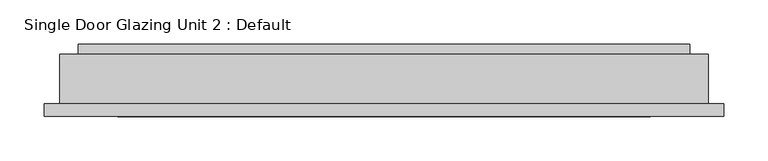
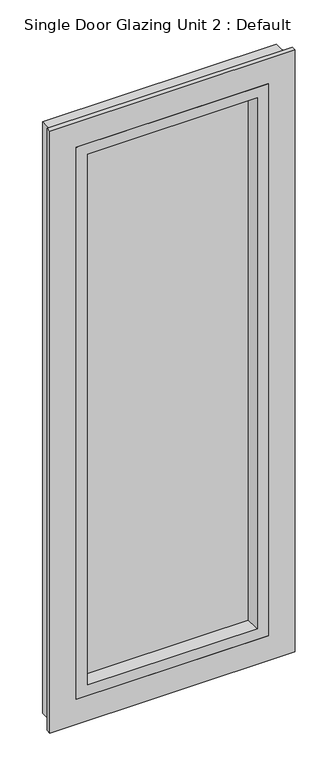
"""IFC4 building model written with IfcOpenShell, lengths in millimetres: proxy geometry, Single Door Glazing Unit 2 : Default."""

import ifcopenshell
import ifcopenshell.guid

model = None  # the IFC model being written
_history = None  # IfcOwnerHistory: only IFC2X3 demands one
_inside = {}  # id of a spatial element -> (the spatial element, [elements in it])
_under = {}  # id of a project, library or spatial element -> (it, [spatial elements below it])
_declared = {}  # id of a project -> (the project, [libraries it declares])
_typed = {}  # id of a type object -> (the type object, [elements of that type])
_made_of = {}  # id of a material, layer set ... -> (it, [elements and type objects made of it])


def new_model(schema):
    """Start an empty IFC model of exactly this schema.

    Asked for "IFC4X3", IfcOpenShell would pick the latest addendum, in which some entities
    have other attributes; the version numbers below select the first issue.
    IFC2X3 requires an IfcOwnerHistory on every rooted entity: one is made here for all.
    """
    global model, _history
    if schema == "IFC4X3":
        model = ifcopenshell.file(schema_version=(4, 3, 0, 0))
    else:
        model = ifcopenshell.file(schema=schema)
    _inside.clear()
    _under.clear()
    _declared.clear()
    _typed.clear()
    _made_of.clear()
    _history = None
    if model.schema == "IFC2X3":
        org = make("IfcOrganization", Name="unknown")
        user = make(
            "IfcPersonAndOrganization",
            ThePerson=make("IfcPerson", FamilyName="unknown"),
            TheOrganization=org,
        )
        app = make(
            "IfcApplication",
            ApplicationDeveloper=org,
            Version="unknown",
            ApplicationFullName="unknown",
            ApplicationIdentifier="unknown",
        )
        _history = make(
            "IfcOwnerHistory",
            OwningUser=user,
            OwningApplication=app,
            ChangeAction="ADDED",
            CreationDate=0,
        )
    return model


def make(cls, **values):
    """One entity of the class cls with the attributes given. An attribute that is None is left unset."""
    return model.create_entity(
        cls, **{name: value for name, value in values.items() if value is not None}
    )


def rooted(cls, **values):
    """An entity with a GlobalId (a new one), such as an element, a storey or a relation."""
    return make(cls, GlobalId=ifcopenshell.guid.new(), OwnerHistory=_history, **values)


def si_unit(unit_type, name, prefix=None):
    """IfcSIUnit, for example si_unit("LENGTHUNIT", "METRE", prefix="MILLI")."""
    return make("IfcSIUnit", UnitType=unit_type, Prefix=prefix, Name=name)


def assignment(units):
    """IfcUnitAssignment: the units of a project."""
    return None if units is None else make("IfcUnitAssignment", Units=units)


def point(xyz):
    """IfcCartesianPoint."""
    return None if xyz is None else make("IfcCartesianPoint", Coordinates=xyz)


def direction(xyz):
    """IfcDirection."""
    return None if xyz is None else make("IfcDirection", DirectionRatios=xyz)


def frame(location, z_axis=None, x_axis=None):
    """IfcAxis2Placement3D, a coordinate frame: its origin and axes. An axis left out is left unset."""
    return make(
        "IfcAxis2Placement3D",
        Location=point(location),
        Axis=direction(z_axis),
        RefDirection=direction(x_axis),
    )


def origin():
    """The frame at (0, 0, 0) with its axes left unset."""
    return frame((0.0, 0.0, 0.0))


def place(relative_to, where):
    """IfcLocalPlacement: puts the frame where relative to a parent placement (None: the world)."""
    return make(
        "IfcLocalPlacement", PlacementRelTo=relative_to, RelativePlacement=where
    )


def context(
    kind, dimensions, precision=None, world=None, true_north=None, identifier=None
):
    """IfcGeometricRepresentationContext, for example the 3D "Model" context."""
    return make(
        "IfcGeometricRepresentationContext",
        ContextIdentifier=identifier,
        ContextType=kind,
        CoordinateSpaceDimension=dimensions,
        Precision=precision,
        WorldCoordinateSystem=world,
        TrueNorth=true_north,
    )


def project(units=None, contexts=None):
    """IfcProject with its units and contexts."""
    return rooted(
        "IfcProject",
        Name="project",
        RepresentationContexts=contexts,
        UnitsInContext=assignment(units),
    )


def spatial(cls, under=None, at=None, **own):
    """A site, building, storey or space (cls), placed at a placement, below another one or the project."""
    s = rooted(cls, ObjectPlacement=at, **own)
    if under is not None:
        _under.setdefault(under.id(), (under, []))[1].append(s)
    return s


def polyline(points):
    """IfcPolyline through the points."""
    return make("IfcPolyline", Points=[point(p) for p in points])


def outline(outer, holes=None, kind="AREA"):
    """IfcArbitraryClosedProfileDef: a profile drawn as a closed curve; with holes, ...WithVoids."""
    if holes is None:
        return make("IfcArbitraryClosedProfileDef", ProfileType=kind, OuterCurve=outer)
    return make(
        "IfcArbitraryProfileDefWithVoids",
        ProfileType=kind,
        OuterCurve=outer,
        InnerCurves=holes,
    )


def extrude(swept, where, along, depth):
    """IfcExtrudedAreaSolid: the profile swept, set in the frame where, extruded along a direction by depth."""
    return make(
        "IfcExtrudedAreaSolid",
        SweptArea=swept,
        Position=where,
        ExtrudedDirection=direction(along),
        Depth=depth,
    )


def faces_of(points, faces, orient=None, outer=None):
    """IfcFace entities. A face is a list of loops; a loop is a list of indices into points, from 0.

    orient and outer hold one flag for each loop. By default every Orientation is true, the
    first loop of a face is its IfcFaceOuterBound and the others are IfcFaceBound.
    """
    made = []
    for i, loops in enumerate(faces):
        bounds = []
        for j, loop in enumerate(loops):
            is_outer = j == 0 if outer is None else outer[i][j]
            bounds.append(
                make(
                    "IfcFaceOuterBound" if is_outer else "IfcFaceBound",
                    Bound=make("IfcPolyLoop", Polygon=[points[k] for k in loop]),
                    Orientation=True if orient is None else orient[i][j],
                )
            )
        made.append(make("IfcFace", Bounds=bounds))
    return made


def faceted_brep(points, faces, orient=None, outer=None, voids=None):
    """IfcFacetedBrep: a solid bounded by flat faces; with voids (closed shells), ...WithVoids."""
    shared = [point(p) for p in points]
    hull = make("IfcClosedShell", CfsFaces=faces_of(shared, faces, orient, outer))
    if voids is None:
        return make("IfcFacetedBrep", Outer=hull)
    return make(
        "IfcFacetedBrepWithVoids",
        Outer=hull,
        Voids=[
            make(cls, CfsFaces=faces_of(shared, fs, o, b)) for cls, fs, o, b in voids
        ],
    )


def shape(context_of_items, identifier, shape_type, items):
    """IfcShapeRepresentation: the items that make up one representation, for example the "Body"."""
    return make(
        "IfcShapeRepresentation",
        ContextOfItems=context_of_items,
        RepresentationIdentifier=identifier,
        RepresentationType=shape_type,
        Items=items,
    )


def source(mapping_origin, context_of_items, identifier, shape_type, items):
    """IfcRepresentationMap: a shape defined once, which mapped items show again and again."""
    return make(
        "IfcRepresentationMap",
        MappingOrigin=mapping_origin,
        MappedRepresentation=shape(context_of_items, identifier, shape_type, items),
    )


def transform(
    local_origin,
    x_axis=None,
    y_axis=None,
    z_axis=None,
    scale=None,
    scale2=None,
    scale3=None,
    uniform=True,
):
    """IfcCartesianTransformationOperator3D, or its non-uniform kind. x_axis, y_axis, z_axis: its Axis1, 2, 3."""
    if uniform:
        return make(
            "IfcCartesianTransformationOperator3D",
            Axis1=direction(x_axis),
            Axis2=direction(y_axis),
            LocalOrigin=point(local_origin),
            Scale=scale,
            Axis3=direction(z_axis),
        )
    return make(
        "IfcCartesianTransformationOperator3DnonUniform",
        Axis1=direction(x_axis),
        Axis2=direction(y_axis),
        LocalOrigin=point(local_origin),
        Scale=scale,
        Axis3=direction(z_axis),
        Scale2=scale2,
        Scale3=scale3,
    )


def mapped(mapping_source, mapping_target):
    """IfcMappedItem: shows the shape of a source again, moved by a transform."""
    return make(
        "IfcMappedItem", MappingSource=mapping_source, MappingTarget=mapping_target
    )


def made_of(thing, what):
    """Note that an element or type object is made of a material, layer set ...; save() writes the relation."""
    if what is not None:
        _made_of.setdefault(what.id(), (what, []))[1].append(thing)
    return thing


def element(
    cls,
    number,
    at=None,
    inside=None,
    cuts=None,
    type_object=None,
    material=None,
    context=None,
    identifier="Body",
    shape_type=None,
    held_by="IfcProductDefinitionShape",
    body=None,
    shapes=None,
    **own,
):
    """One element of the class cls, such as IfcWall. Its Tag is "e" and its number.

    at: its placement. inside: the storey or other place that contains it. cuts: it is an
    opening in that element (IfcRelVoidsElement). A single representation is given by context,
    identifier, shape_type and body (its items); several are given by shapes. held_by: the class
    of the entity that holds the representations. save() writes the other relations.
    """
    e = rooted(cls, Tag="e%d" % number, ObjectPlacement=at, **own)
    if body is not None:
        shapes = [shape(context, identifier, shape_type, body)]
    if shapes is not None:
        e.Representation = make(held_by, Representations=shapes)
    if inside is not None:
        _inside.setdefault(inside.id(), (inside, []))[1].append(e)
    if cuts is not None:
        rooted(
            "IfcRelVoidsElement", RelatingBuildingElement=cuts, RelatedOpeningElement=e
        )
    if type_object is not None:
        _typed.setdefault(type_object.id(), (type_object, []))[1].append(e)
    return made_of(e, material)


def aggregate(whole, parts):
    """IfcRelAggregates: a whole, such as a stair, and the parts it consists of."""
    return rooted("IfcRelAggregates", RelatingObject=whole, RelatedObjects=parts)


def save(model, path):
    """Write the relations noted so far, then the file.

    IfcRelAggregates (storeys below a building ...), IfcRelContainedInSpatialStructure (elements
    in a storey), IfcRelDefinesByType, IfcRelAssociatesMaterial and IfcRelDeclares: one each for
    every whole, place, type object, material and project.
    """
    for whole, parts in _under.values():
        aggregate(whole, parts)
    for where, things in _inside.values():
        rooted(
            "IfcRelContainedInSpatialStructure",
            RelatedElements=things,
            RelatingStructure=where,
        )
    for kind, things in _typed.values():
        rooted("IfcRelDefinesByType", RelatedObjects=things, RelatingType=kind)
    for what, things in _made_of.values():
        rooted("IfcRelAssociatesMaterial", RelatedObjects=things, RelatingMaterial=what)
    for by, libraries in _declared.values():
        rooted("IfcRelDeclares", RelatingContext=by, RelatedDefinitions=libraries)
    model.write(path)


def single_door_glazing_unit_2_default_b848760a(model_context):
    return source(origin(), model_context, "Body", "SolidModel", [
        extrude(outline(polyline([(344.4875, 80.9625), (344.4875, 69.85), (-344.4875, 69.85), (-344.4875, 80.9625), (344.4875, 80.9625)])), frame((0.0, 0.0, 41.275), z_axis=(0.0, 0.0, 1.0), x_axis=(1.0, 0.0, 0.0)), (0.0, 0.0, 1.0), 20.6375),
        extrude(outline(polyline([(-290.5125, 64.690625), (-290.5125, 69.85), (290.5125, 69.85), (290.5125, 64.690625), (-290.5125, 64.690625)])), frame((0.0, 0.0, 115.8875), z_axis=(0.0, 0.0, 1.0), x_axis=(1.0, 0.0, 0.0)), (0.0, 0.0, 1.0), 1800.225),
        extrude(outline(polyline([(-290.5125, 41.275), (-290.5125, 46.434375), (290.5125, 46.434375), (290.5125, 41.275), (-290.5125, 41.275)])), frame((0.0, 0.0, 115.8875), z_axis=(0.0, 0.0, 1.0), x_axis=(1.0, 0.0, 0.0)), (0.0, 0.0, 1.0), 1800.225),
        faceted_brep([(-300.0375, 1.5875, 1925.6375), (-300.0375, 0.0, 1925.6375), (300.0375, 0.0, 1925.6375), (300.0375, 1.5875, 1925.6375), (-290.5125, 20.6375, 1916.1125), (-290.5125, 1.5875, 1916.1125), (290.5125, 1.5875, 1916.1125), (290.5125, 20.6375, 1916.1125), (-266.7, 41.275, 1892.3), (266.7, 41.275, 1892.3), (-265.1125, 0.0, 1890.7125), (-260.35, 41.275, 1885.95), (260.35, 41.275, 1885.95), (265.1125, 0.0, 1890.7125), (300.0375, 0.0, 106.3625), (300.0375, 1.5875, 106.3625), (290.5125, 1.5875, 115.8875), (290.5125, 20.6375, 115.8875), (266.7, 41.275, 139.7), (260.35, 41.275, 146.05), (265.1125, 0.0, 141.2875), (-300.0375, 0.0, 106.3625), (-300.0375, 1.5875, 106.3625), (-290.5125, 1.5875, 115.8875), (-290.5125, 20.6375, 115.8875), (-266.7, 41.275, 139.7), (-260.35, 41.275, 146.05), (-265.1125, 0.0, 141.2875)], [[[0, 1, 2, 3]], [[4, 5, 6, 7]], [[8, 4, 7, 9]], [[10, 11, 12, 13]], [[3, 2, 14, 15]], [[7, 6, 16, 17]], [[9, 7, 17, 18]], [[13, 12, 19, 20]], [[15, 14, 21, 22]], [[17, 16, 23, 24]], [[18, 17, 24, 25]], [[20, 19, 26, 27]], [[1, 21, 14, 2], [13, 20, 27, 10]], [[22, 21, 1, 0]], [[3, 15, 22, 0], [5, 23, 16, 6]], [[24, 23, 5, 4]], [[25, 24, 4, 8]], [[9, 18, 25, 8], [11, 26, 19, 12]], [[27, 26, 11, 10]]]),
        faceted_brep([(-365.125, 69.85, 1990.725), (-365.125, 14.2875, 1990.725), (365.125, 14.2875, 1990.725), (365.125, 69.85, 1990.725), (-344.4875, 80.9625, 1970.0875), (-344.4875, 69.85, 1970.0875), (344.4875, 69.85, 1970.0875), (344.4875, 80.9625, 1970.0875), (-261.9375, 69.85, 1887.5375), (-261.9375, 80.9625, 1887.5375), (261.9375, 80.9625, 1887.5375), (261.9375, 69.85, 1887.5375), (-290.5125, 14.2875, 1916.1125), (-290.5125, 69.85, 1916.1125), (290.5125, 69.85, 1916.1125), (290.5125, 14.2875, 1916.1125), (-300.0375, 0.0, 1925.6375), (-300.0375, 14.2875, 1925.6375), (300.0375, 14.2875, 1925.6375), (300.0375, 0.0, 1925.6375), (-382.5875, 14.2875, 2008.1875), (-382.5875, 0.0, 2008.1875), (382.5875, 0.0, 2008.1875), (382.5875, 14.2875, 2008.1875), (365.125, 14.2875, 41.275), (365.125, 69.85, 41.275), (344.4875, 69.85, 61.9125), (344.4875, 80.9625, 61.9125), (261.9375, 80.9625, 144.4625), (261.9375, 69.85, 144.4625), (290.5125, 69.85, 115.8875), (290.5125, 14.2875, 115.8875), (300.0375, 14.2875, 106.3625), (300.0375, 0.0, 106.3625), (382.5875, 0.0, 23.8125), (382.5875, 14.2875, 23.8125), (-365.125, 14.2875, 41.275), (-365.125, 69.85, 41.275), (-344.4875, 69.85, 61.9125), (-344.4875, 80.9625, 61.9125), (-261.9375, 80.9625, 144.4625), (-261.9375, 69.85, 144.4625), (-290.5125, 69.85, 115.8875), (-290.5125, 14.2875, 115.8875), (-300.0375, 14.2875, 106.3625), (-300.0375, 0.0, 106.3625), (-382.5875, 0.0, 23.8125), (-382.5875, 14.2875, 23.8125)], [[[0, 1, 2, 3]], [[4, 5, 6, 7]], [[8, 9, 10, 11]], [[12, 13, 14, 15]], [[16, 17, 18, 19]], [[20, 21, 22, 23]], [[3, 2, 24, 25]], [[7, 6, 26, 27]], [[11, 10, 28, 29]], [[15, 14, 30, 31]], [[19, 18, 32, 33]], [[23, 22, 34, 35]], [[25, 24, 36, 37]], [[27, 26, 38, 39]], [[29, 28, 40, 41]], [[31, 30, 42, 43]], [[33, 32, 44, 45]], [[35, 34, 46, 47]], [[23, 35, 47, 20], [1, 36, 24, 2]], [[37, 36, 1, 0]], [[3, 25, 37, 0], [5, 38, 26, 6]], [[39, 38, 5, 4]], [[7, 27, 39, 4], [9, 40, 28, 10]], [[41, 40, 9, 8]], [[13, 42, 30, 14], [11, 29, 41, 8]], [[43, 42, 13, 12]], [[17, 44, 32, 18], [15, 31, 43, 12]], [[45, 44, 17, 16]], [[21, 46, 34, 22], [19, 33, 45, 16]], [[47, 46, 21, 20]]]),
    ])


if __name__ == "__main__":
    model = new_model("IFC4")
    model_context = context("Model", 3, world=origin())
    ifc_project = project(units=[si_unit("LENGTHUNIT", "METRE", prefix="MILLI")], contexts=[model_context])
    site = spatial("IfcSite", under=ifc_project)
    building = spatial("IfcBuilding", under=site)
    placement = place(None, origin())
    single_door_glazing_unit_2_default_shape = single_door_glazing_unit_2_default_b848760a(model_context)
    element("IfcBuildingElementProxy", 1, Name="Single Door Glazing Unit 2 : Default", ObjectType="Single Door Glazing Unit 2 : Default", at=placement, inside=building, context=model_context, shape_type="MappedRepresentation", body=[
        mapped(single_door_glazing_unit_2_default_shape, transform((0.0, 0.0, 0.0), x_axis=(1.0, 0.0, 0.0), y_axis=(0.0, 1.0, 0.0), z_axis=(0.0, 0.0, 1.0))),
    ])
    save(model, "model.ifc")
